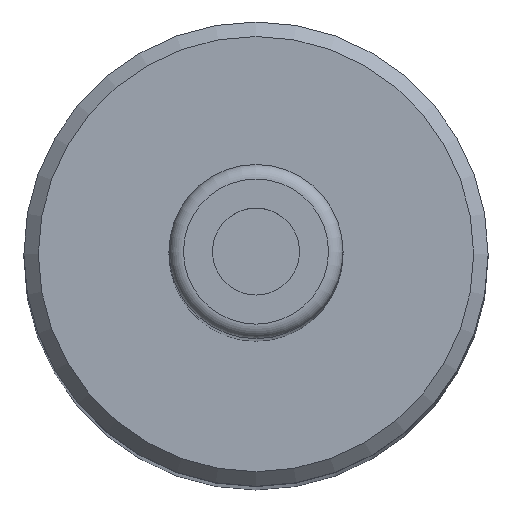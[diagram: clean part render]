
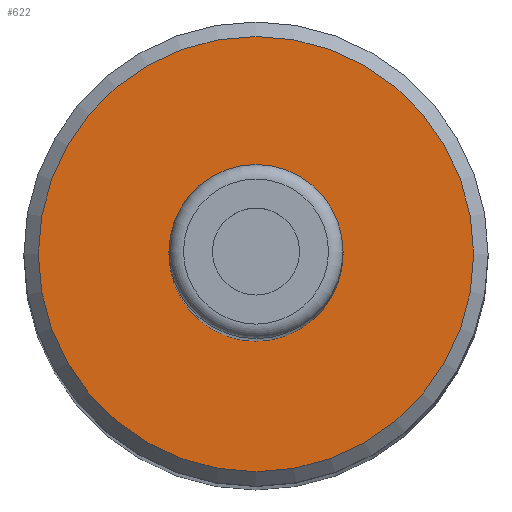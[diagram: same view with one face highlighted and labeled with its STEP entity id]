
A CAD part, top view. The second image highlights one B-rep face of the part: STEP entity #622.
In plain terms, the highlighted planar face has unit normal (0, 0, 1).
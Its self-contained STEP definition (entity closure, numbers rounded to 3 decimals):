
#602 = VERTEX_POINT('',#603);
#603 = CARTESIAN_POINT('',(15.,0.,149.));
#611 = EDGE_CURVE('',#602,#602,#612,.T.);
#612 = CIRCLE('',#613,15.);
#613 = AXIS2_PLACEMENT_3D('',#614,#615,#616);
#614 = CARTESIAN_POINT('',(0.,0.,149.));
#615 = DIRECTION('',(0.,0.,1.));
#616 = DIRECTION('',(1.,0.,0.));
#622 = ADVANCED_FACE('',(#623),#626,.T.);
#623 = FACE_BOUND('',#624,.T.);
#624 = EDGE_LOOP('',(#625));
#625 = ORIENTED_EDGE('',*,*,#611,.T.);
#626 = PLANE('',#627);
#627 = AXIS2_PLACEMENT_3D('',#628,#629,#630);
#628 = CARTESIAN_POINT('',(0.,0.,149.));
#629 = DIRECTION('',(0.,0.,1.));
#630 = DIRECTION('',(1.,0.,0.));
